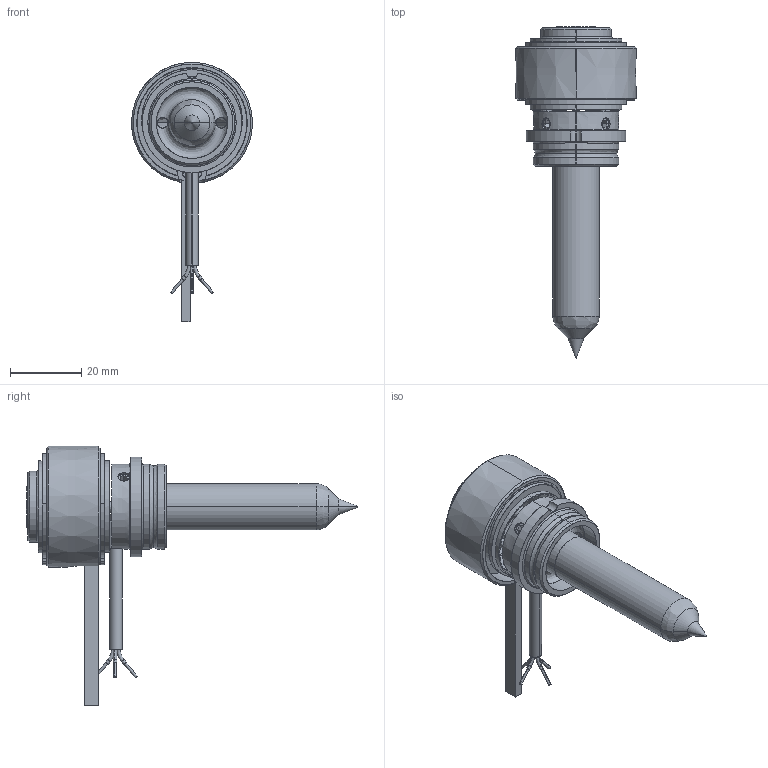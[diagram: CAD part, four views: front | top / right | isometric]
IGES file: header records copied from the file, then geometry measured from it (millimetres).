
Start section: SolidWorks IGES file using analytic representation for surfaces
Global section: file name: C:\Documents and Settings\ws-20\Desktop\TEM\UGGS2530-M-0 [Øf-0.25].IGS; native system: SolidWorks 2012; preprocessor: SolidWorks 2012; author: ws-20; date: 120516.093035; units: millimetre
Bounding box: 34 x 93.3 x 72.9 mm (x, y, z)
Surface area: 15485.3 mm2 (no closed solid volume)
Topology: 0 solids, 0 shells, 205 faces, 2891 edges, 2885 vertices
Faces by surface type: revolution 121, bspline 84
